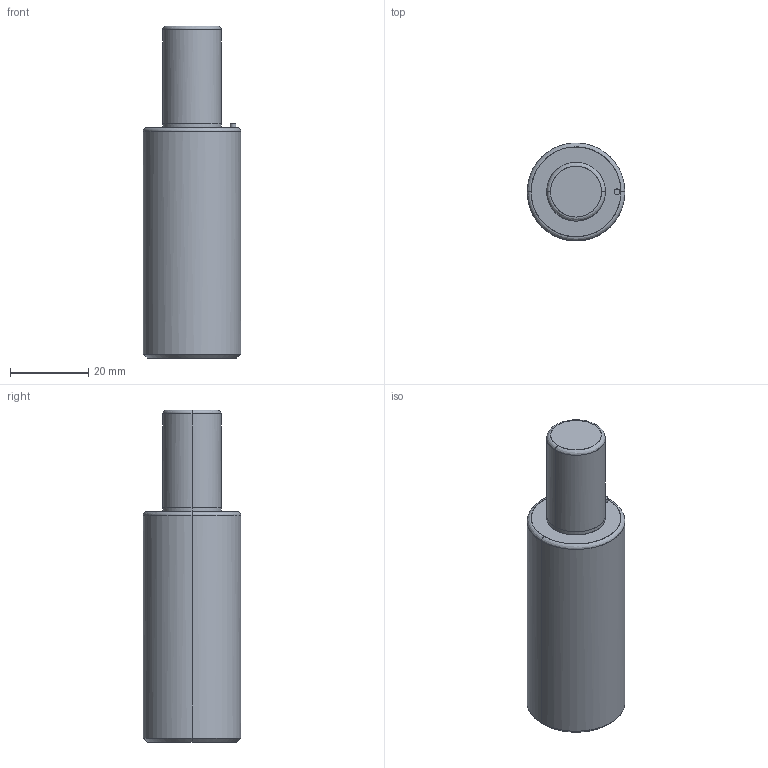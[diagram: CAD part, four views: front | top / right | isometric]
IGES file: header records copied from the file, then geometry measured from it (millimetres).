
Global section: file name: E:\UnigraphicsGraphicData\MISUMI_PRESS-PARTS\IGES\3d_mgsc25-25_04573_r00.igs; native system: NX V5.0; preprocessor: UGS NX IGES V5.0; author: MISUMI; date: 20110105.161436; units: millimetre
Bounding box: 25 x 24.98 x 85 mm (x, y, z)
Surface area: 6957.6 mm2 (no closed solid volume)
Topology: 0 solids, 0 shells, 24 faces, 136 edges, 134 vertices
Faces by surface type: bspline 24
